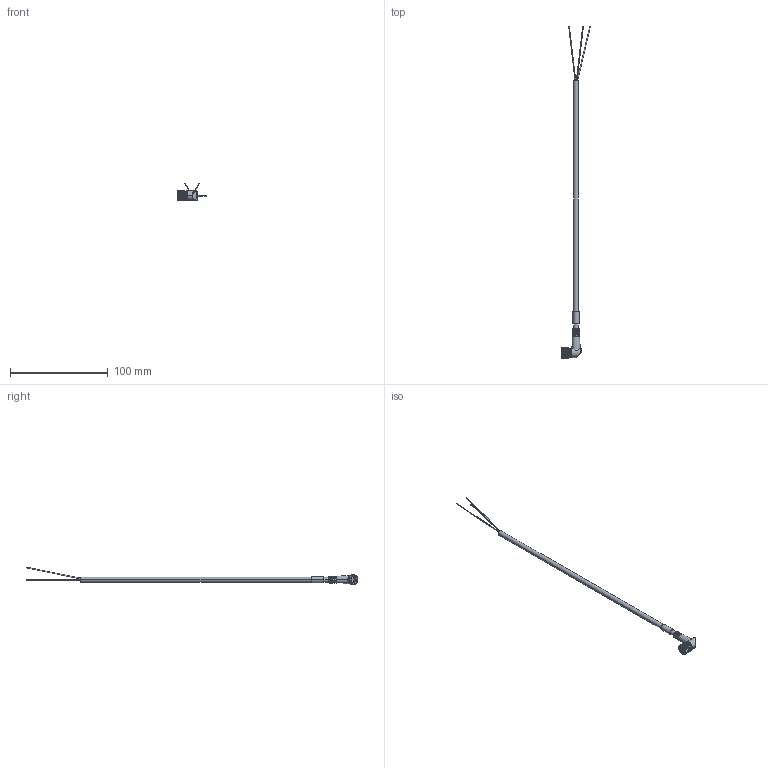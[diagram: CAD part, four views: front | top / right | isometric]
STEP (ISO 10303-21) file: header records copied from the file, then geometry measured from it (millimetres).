
FILE_DESCRIPTION((''),'2;1');
FILE_NAME('889P-R4BB-2','2015-03-24T',('20066374'),('Rockwell Automation'),'PRO/ENGINEER BY PARAMETRIC TECHNOLOGY CORPORATION, 2009140','PRO/ENGINEER BY PARAMETRIC TECHNOLOGY CORPORATION, 2009140','');
FILE_SCHEMA(('CONFIG_CONTROL_DESIGN'));
Length unit declared in the file: inch
Products named in the file (1): 889P-R4BB-2
Bounding box: 29.56 x 339.55 x 18.1 mm (x, y, z)
Volume: 7395.1 mm3; surface area: 6338.6 mm2
Topology: 1 solids, 1 shells, 433 faces, 1021 edges, 608 vertices
Faces by surface type: plane 205, cylinder 161, cone 48, torus 15, bspline 2, sphere 2
Entity records: 13066 total; most frequent: CARTESIAN_POINT 3087, DIRECTION 2156, ORIENTED_EDGE 2042, EDGE_CURVE 1021, AXIS2_PLACEMENT_3D 839, VERTEX_POINT 608, VECTOR 478, LINE 478
